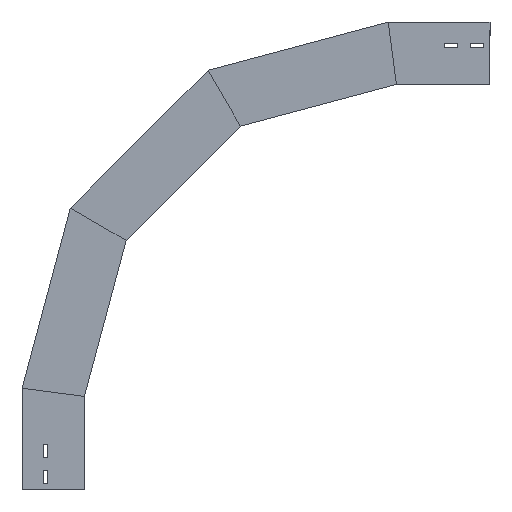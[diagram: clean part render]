
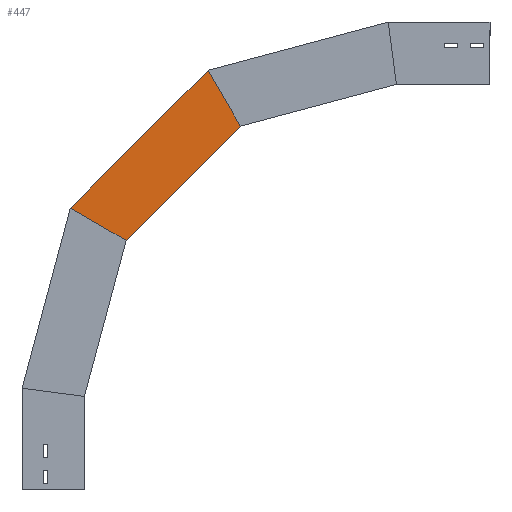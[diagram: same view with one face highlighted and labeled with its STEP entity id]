
A CAD part, left-side view. The second image highlights one B-rep face of the part: STEP entity #447.
In plain terms, the highlighted planar face has unit normal (-1, 0, 0) as drawn and (1, 0, 0) by its records, which use the part's own axes.
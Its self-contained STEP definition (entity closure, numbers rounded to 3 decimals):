
#23 = VECTOR ( 'NONE', #1869, 1000. ) ;
#81 = AXIS2_PLACEMENT_3D ( 'NONE', #419, #1745, #866 ) ;
#171 = PLANE ( 'NONE',  #81 ) ;
#176 = CARTESIAN_POINT ( 'NONE',  ( 0., -250.175, 583.315 ) ) ;
#340 = CARTESIAN_POINT ( 'NONE',  ( 0., 22.623, 451.939 ) ) ;
#395 = VECTOR ( 'NONE', #1597, 1000. ) ;
#409 = LINE ( 'NONE', #1270, #23 ) ;
#419 = CARTESIAN_POINT ( 'NONE',  ( 0., -46.122, 379.263 ) ) ;
#441 = DIRECTION ( 'NONE',  ( 0., -0.866, -0.5 ) ) ;
#447 = ADVANCED_FACE ( 'NONE', ( #1726 ), #171, .T. ) ;
#476 = CARTESIAN_POINT ( 'NONE',  ( 0., -46.122, 379.263 ) ) ;
#485 = CARTESIAN_POINT ( 'NONE',  ( 0., -198.411, 672.973 ) ) ;
#514 = ORIENTED_EDGE ( 'NONE', *, *, #806, .F. ) ;
#560 = VERTEX_POINT ( 'NONE', #340 ) ;
#655 = VECTOR ( 'NONE', #441, 1000. ) ;
#724 = CARTESIAN_POINT ( 'NONE',  ( 0., -67.034, 400.175 ) ) ;
#742 = EDGE_CURVE ( 'NONE', #560, #1391, #409, .T. ) ;
#793 = EDGE_LOOP ( 'NONE', ( #1211, #1224, #1884, #514 ) ) ;
#806 = EDGE_CURVE ( 'NONE', #560, #1334, #872, .T. ) ;
#866 = DIRECTION ( 'NONE',  ( 0., 0., -1. ) ) ;
#872 = LINE ( 'NONE', #1429, #655 ) ;
#1059 = VERTEX_POINT ( 'NONE', #176 ) ;
#1086 = DIRECTION ( 'NONE',  ( 0., -0.707, 0.707 ) ) ;
#1157 = CARTESIAN_POINT ( 'NONE',  ( 0., -287.519, 518.633 ) ) ;
#1211 = ORIENTED_EDGE ( 'NONE', *, *, #742, .T. ) ;
#1224 = ORIENTED_EDGE ( 'NONE', *, *, #1670, .T. ) ;
#1270 = CARTESIAN_POINT ( 'NONE',  ( 0., 24.589, 449.973 ) ) ;
#1334 = VERTEX_POINT ( 'NONE', #724 ) ;
#1368 = EDGE_CURVE ( 'NONE', #1334, #1059, #1668, .T. ) ;
#1391 = VERTEX_POINT ( 'NONE', #485 ) ;
#1429 = CARTESIAN_POINT ( 'NONE',  ( 0., -128.356, 364.771 ) ) ;
#1597 = DIRECTION ( 'NONE',  ( 0., -0.5, -0.866 ) ) ;
#1668 = LINE ( 'NONE', #476, #1677 ) ;
#1670 = EDGE_CURVE ( 'NONE', #1391, #1059, #1735, .T. ) ;
#1677 = VECTOR ( 'NONE', #1086, 1000. ) ;
#1726 = FACE_OUTER_BOUND ( 'NONE', #793, .T. ) ;
#1735 = LINE ( 'NONE', #1157, #395 ) ;
#1745 = DIRECTION ( 'NONE',  ( 1., 0., 0. ) ) ;
#1869 = DIRECTION ( 'NONE',  ( 0., -0.707, 0.707 ) ) ;
#1884 = ORIENTED_EDGE ( 'NONE', *, *, #1368, .F. ) ;
